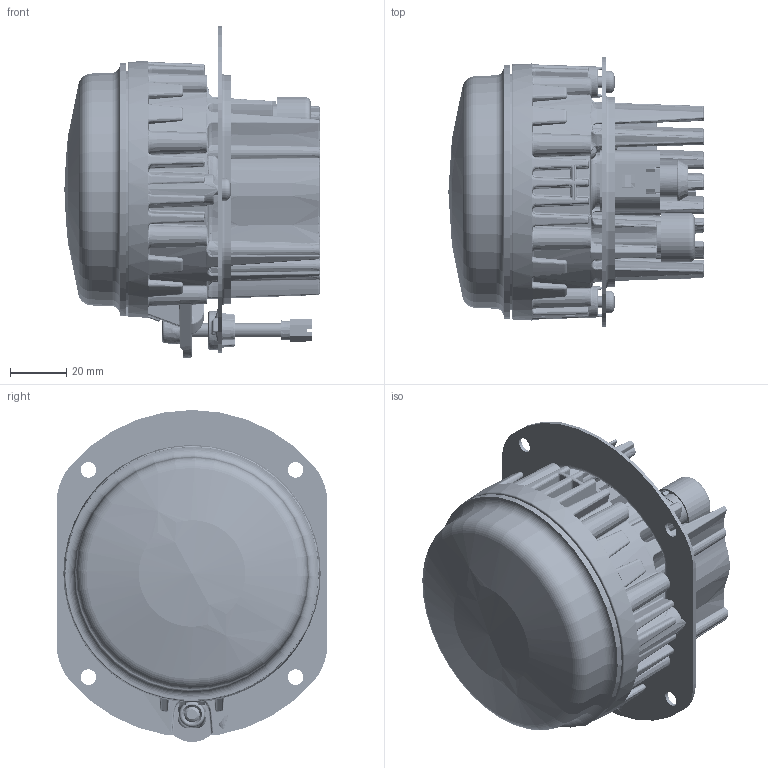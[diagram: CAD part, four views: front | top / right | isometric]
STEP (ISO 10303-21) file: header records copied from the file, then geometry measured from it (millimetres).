
FILE_DESCRIPTION(('CATIA V5 STEP Exchange','CAx-IF Rec.Pracs.--- Model Styling and Organization---1.5--- 2016-08-15','CAx-IF Rec.Pracs.---Supplemental Geometry---1.0---2011-11-01','CAx-IF Rec.Pracs.--- Composite Materials ---1.1---2010-07-15'),'2;1');
FILE_NAME('E:\tmp\ddx\2011204\3D_data_LED_high_beam_headlamp_L4060_with_frame_1F0 011 988-02.stp','2022-01-18T07:25:38+00:00',('none'),('none'),'CATIA Version 5-6 Release 2020 SP3 HF9','CATIA V5 STEP AP214 Edition 3 v2','none');
FILE_SCHEMA(('AUTOMOTIVE_DESIGN { 1 0 10303 214 3 1 1 1 }'));
Length unit declared in the file: millimetre
Products named in the file (1): 10001047520_D10_001
Bounding box: 90.56 x 96 x 117.78 mm (x, y, z)
Volume: 227613.8 mm3; surface area: 149145.6 mm2
Topology: 15 solids, 15 shells, 6313 faces, 14591 edges, 7253 vertices
Faces by surface type: bspline 3859, torus 595, plane 577, cone 497, cylinder 362, extrusion 195, sphere 180, revolution 48
Entity records: 340862 total; most frequent: CARTESIAN_POINT 241343, ORIENTED_EDGE 26946, EDGE_CURVE 13473, B_SPLINE_CURVE_WITH_KNOTS 9649, DIRECTION 7362, VERTEX_POINT 7252, EDGE_LOOP 6435, ADVANCED_FACE 6313
